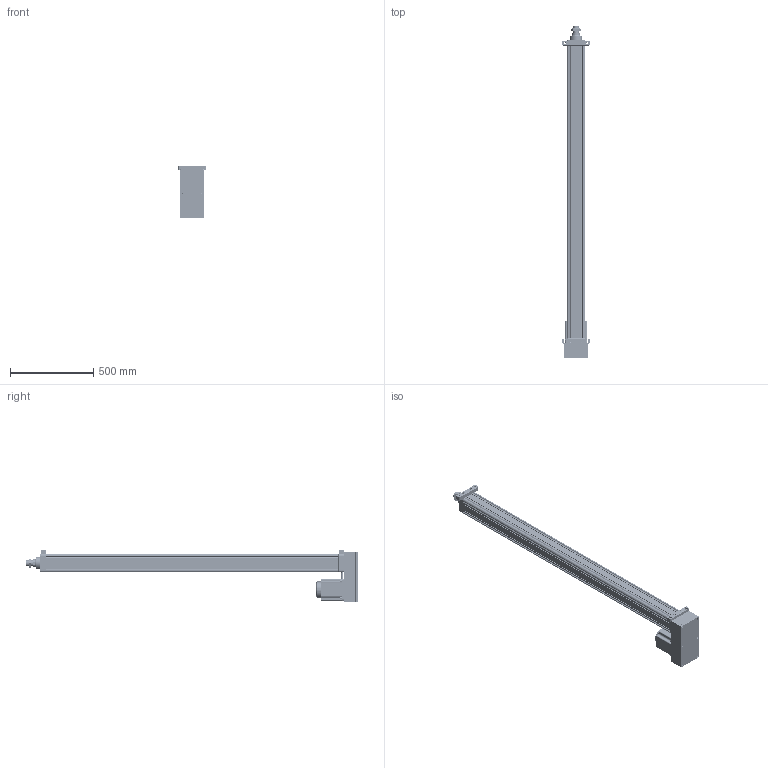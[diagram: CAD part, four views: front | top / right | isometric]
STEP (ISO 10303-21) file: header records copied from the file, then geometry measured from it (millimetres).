
FILE_DESCRIPTION((''),'2;1');
FILE_NAME('HE100-D-P_ASM','2020-05-06T',('ASUS20200'),(''),'CREO PARAMETRIC BY PTC INC, 2014190','CREO PARAMETRIC BY PTC INC, 2014190','');
FILE_SCHEMA(('CONFIG_CONTROL_DESIGN'));
Products named in the file (46): HE100-D-P-001-X1; HE100-D-P-002-X1; HE100-D-P-003-X1; 30305J; SFNHR03205B1-001-X1; SFNHR03205B1-002-X1; SFNHR03205B1-ST_ASM; HE100-D-P-004-X1; HE100-D-P-006-X1; HE100-D-P-007-X2; HE100-D-P-007-X1-2; M3X8-PB; HE100-D-P-HST_ASM; HE100-D-P-005-X1; TD-8; M8X30; LGLM-M10-25; K-M25X1-5P-36; JX6X6X30; JDB506030; HE80-D-P-008-X1; SLM-01; YZ-M6X1; HE100-GT2535-17; HE100-100-D-P-X1_ASM; HE100-P-010-X1-130N; 130ST-M10010; HE100-P-S8M300-32-20K6; HE100-P-012-X1; M10X25; HE100-P-009-X1-130N; HE100-P-013-X1-130N; M8X35; M8X75; LM-M8-7-5; HE100-P-S8M300-32-40; HE100-P-S8M-576-30; M10X1-25-40; LM-M10-30; LM-M10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
Assembly tree (91 placements, depth 4):
  HE100-D-P_ASM
    HE100-100-D-P-X1_ASM
      HE100-D-P-001-X1
      HE100-D-P-002-X1
      HE100-D-P-003-X1
      30305J  x2
      SFNHR03205B1-ST_ASM
        SFNHR03205B1-001-X1
        SFNHR03205B1-002-X1
      HE100-D-P-HST_ASM
        HE100-D-P-004-X1
        HE100-D-P-006-X1
        HE100-D-P-007-X2
        HE100-D-P-007-X1-2
        M3X8-PB  x5
      HE100-D-P-005-X1
      TD-8  x6
      M8X30  x6
      LGLM-M10-25  x8
      K-M25X1-5P-36
      JX6X6X30
      JDB506030
      HE80-D-P-008-X1
      SLM-01
      YZ-M6X1
      HE100-GT2535-17
    HE100-P-010-X1-130N
    130ST-M10010
    HE100-P-S8M300-32-20K6
    HE100-P-012-X1
    M10X25  x4
    HE100-P-009-X1-130N
    HE100-P-013-X1-130N
    TD-8  x4
    M8X35  x4
    M8X75  x6
    LM-M8-7-5  x4
    HE100-P-S8M300-32-40
    HE100-P-S8M-576-30
    M10X1-25-40
    LM-M10-30
    LM-M10
    Z21-22-40
    HE100-D-P-015-X1
    HE100-D-P-016-X1
    TD-10  x4
    M10X35  x4
Bounding box: 165 x 1994 x 315 mm (x, y, z)
Volume: 13247852.2 mm3; surface area: 3707236 mm2
Topology: 88 solids, 148 shells, 4681 faces, 11384 edges, 7026 vertices
Faces by surface type: cylinder 1731, plane 1654, cone 1023, torus 196, sphere 50, bspline 27
Entity records: 119951 total; most frequent: CARTESIAN_POINT 29039, DIRECTION 20451, ORIENTED_EDGE 17850, EDGE_CURVE 9042, AXIS2_PLACEMENT_3D 8164, VERTEX_POINT 5611, CIRCLE 4292, VECTOR 4123
